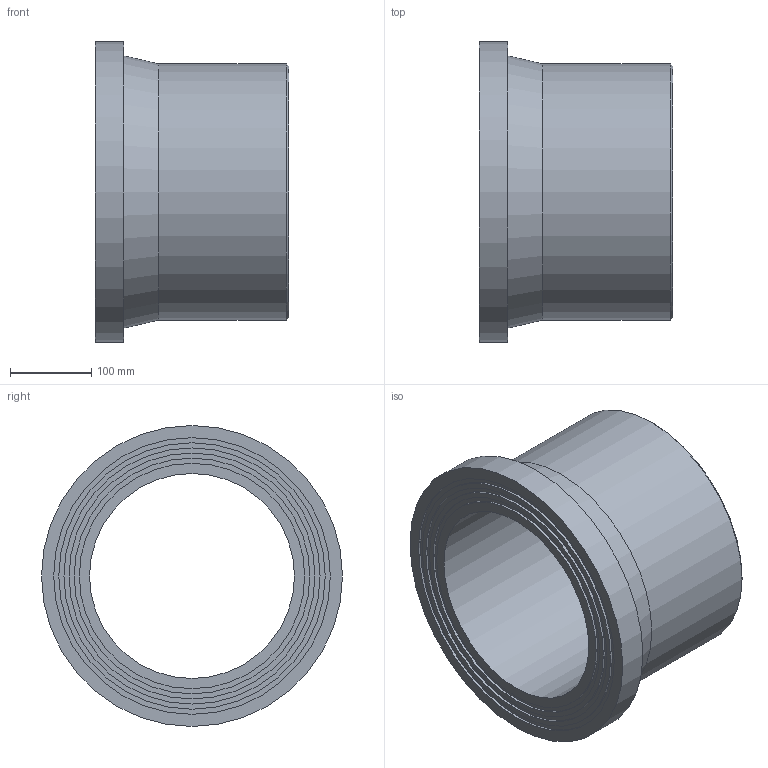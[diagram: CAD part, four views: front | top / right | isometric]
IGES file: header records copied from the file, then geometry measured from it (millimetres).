
Global section: file name: 490207315.ipt; native system: Autodesk Inventor 2015; preprocessor: unknown; author: Кирилл,,11,0; organization: 20170718.095537; date: 20190331.185839; units: millimetre
Bounding box: 238 x 370 x 370 mm (x, y, z)
Volume: 7867437.9 mm3; surface area: 554085.9 mm2
Topology: 1 solids, 1 shells, 20 faces, 33 edges, 22 vertices
Faces by surface type: plane 9, cylinder 5, revolution 4, cone 2
Full cylindrical faces by diameter (mm): 277.2 x1, 302.4 x1, 315 x1, 327.6 x1, 370 x1
